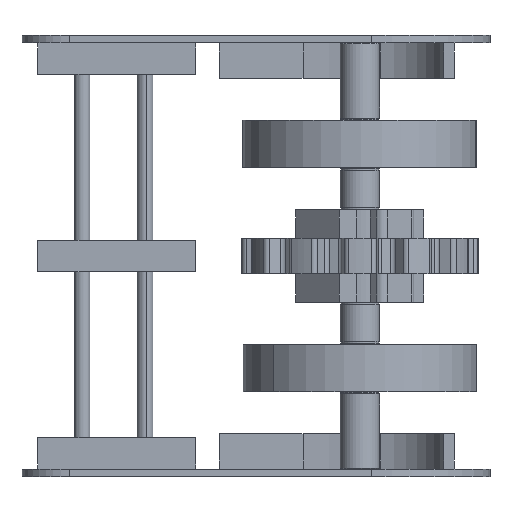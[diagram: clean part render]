
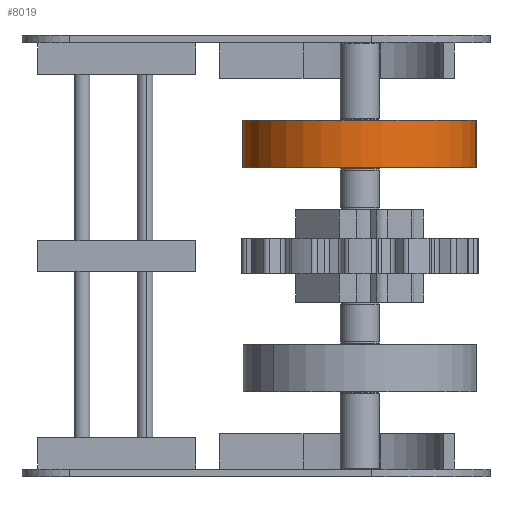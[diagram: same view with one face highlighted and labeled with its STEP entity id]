
A CAD part, front view. The second image highlights one B-rep face of the part: STEP entity #8019.
In plain terms, the highlighted cylindrical face has radius 74 mm (diameter 148 mm), a partial arc.
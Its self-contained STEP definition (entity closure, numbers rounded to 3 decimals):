
#655 = DIRECTION ( 'NONE',  ( 0., 0., -1. ) ) ;
#657 = DIRECTION ( 'NONE',  ( 0., -1., 0. ) ) ;
#683 = CARTESIAN_POINT ( 'NONE',  ( 0., 30., 0. ) ) ;
#2844 = CARTESIAN_POINT ( 'NONE',  ( 0., 30., 74. ) ) ;
#2866 = CARTESIAN_POINT ( 'NONE',  ( 0., 0., -74. ) ) ;
#2868 = CARTESIAN_POINT ( 'NONE',  ( 0., 30., -74. ) ) ;
#2872 = CARTESIAN_POINT ( 'NONE',  ( 0., 0., 74. ) ) ;
#3376 = DIRECTION ( 'NONE',  ( 0., 0., 1. ) ) ;
#3392 = DIRECTION ( 'NONE',  ( 0., 1., 0. ) ) ;
#3395 = DIRECTION ( 'NONE',  ( 0., -1., 0. ) ) ;
#3398 = CARTESIAN_POINT ( 'NONE',  ( 0., 30., 74. ) ) ;
#3429 = DIRECTION ( 'NONE',  ( 0., 0., 1. ) ) ;
#3434 = DIRECTION ( 'NONE',  ( 0., 1., 0. ) ) ;
#3435 = CARTESIAN_POINT ( 'NONE',  ( 0., 30., 0. ) ) ;
#3464 = CARTESIAN_POINT ( 'NONE',  ( 0., 0., 0. ) ) ;
#3840 = EDGE_CURVE ( 'NONE', #11653, #11651, #9277, .T. ) ;
#3990 = EDGE_CURVE ( 'NONE', #11657, #11651, #9619, .T. ) ;
#4013 = EDGE_CURVE ( 'NONE', #11629, #11653, #9652, .T. ) ;
#4023 = EDGE_CURVE ( 'NONE', #11629, #11657, #9665, .T. ) ;
#5449 = AXIS2_PLACEMENT_3D ( 'NONE', #3464, #3392, #3376 ) ;
#6865 = AXIS2_PLACEMENT_3D ( 'NONE', #683, #657, #655 ) ;
#6917 = AXIS2_PLACEMENT_3D ( 'NONE', #3435, #3434, #3429 ) ;
#7414 = CYLINDRICAL_SURFACE ( 'NONE', #6865, 74. ) ;
#7488 = FACE_OUTER_BOUND ( 'NONE', #7762, .T. ) ;
#7762 = EDGE_LOOP ( 'NONE', ( #12209, #12276, #12207, #12208 ) ) ;
#8019 = ADVANCED_FACE ( 'NONE', ( #7488 ), #7414, .T. ) ;
#8707 = CARTESIAN_POINT ( 'NONE',  ( 0., 30., -74. ) ) ;
#8714 = DIRECTION ( 'NONE',  ( 0., -1., 0. ) ) ;
#9275 = VECTOR ( 'NONE', #8714, 1000. ) ;
#9277 = LINE ( 'NONE', #8707, #9275 ) ;
#9619 = CIRCLE ( 'NONE', #5449, 74. ) ;
#9652 = CIRCLE ( 'NONE', #6917, 74. ) ;
#9665 = LINE ( 'NONE', #3398, #9668 ) ;
#9668 = VECTOR ( 'NONE', #3395, 1000. ) ;
#11629 = VERTEX_POINT ( 'NONE', #2844 ) ;
#11651 = VERTEX_POINT ( 'NONE', #2866 ) ;
#11653 = VERTEX_POINT ( 'NONE', #2868 ) ;
#11657 = VERTEX_POINT ( 'NONE', #2872 ) ;
#12207 = ORIENTED_EDGE ( 'NONE', *, *, #3990, .T. ) ;
#12208 = ORIENTED_EDGE ( 'NONE', *, *, #3840, .F. ) ;
#12209 = ORIENTED_EDGE ( 'NONE', *, *, #4013, .F. ) ;
#12276 = ORIENTED_EDGE ( 'NONE', *, *, #4023, .T. ) ;
